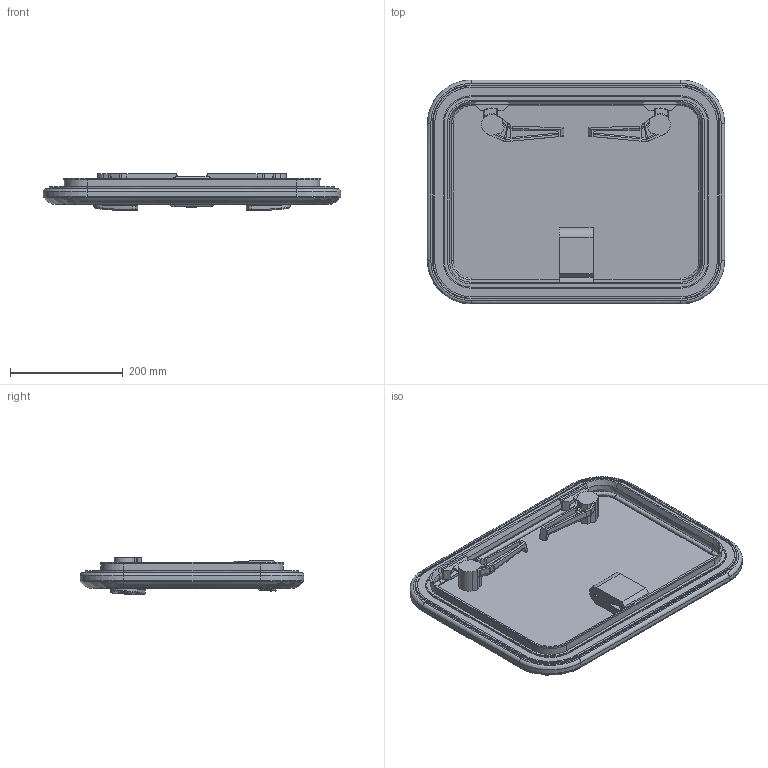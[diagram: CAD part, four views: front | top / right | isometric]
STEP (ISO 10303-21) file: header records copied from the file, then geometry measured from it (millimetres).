
FILE_DESCRIPTION((''),'2;1');
FILE_NAME('LEWMAR-HATCH-MEDPRO-30_ASM','2008-02-04T',('skennedy'),(''),'PRO/ENGINEER BY PARAMETRIC TECHNOLOGY CORPORATION, 2007030','PRO/ENGINEER BY PARAMETRIC TECHNOLOGY CORPORATION, 2007030','');
FILE_SCHEMA(('CONFIG_CONTROL_DESIGN'));
Length unit declared in the file: millimetre
Products named in the file (6): FRAME_MP_30; 3593043X; HANDLE_LHS; HANDLE_RHS; HINGE_LEVER; LEWMAR-HATCH-MEDPRO-30_ASM
Assembly tree (5 placements, depth 2):
  LEWMAR-HATCH-MEDPRO-30_ASM
    FRAME_MP_30
    3593043X
    HANDLE_LHS
    HANDLE_RHS
    HINGE_LEVER
Bounding box: 527 x 397 x 65.24 mm (x, y, z)
Volume: 2237060.8 mm3; surface area: 776418.7 mm2
Topology: 3 solids, 5 shells, 991 faces, 2530 edges, 1562 vertices
Faces by surface type: plane 368, bspline 299, cylinder 189, torus 43, cone 37, extrusion 35, sphere 20
Entity records: 41393 total; most frequent: CARTESIAN_POINT 19701, ORIENTED_EDGE 5026, DIRECTION 3548, EDGE_CURVE 2515, VERTEX_POINT 1562, AXIS2_PLACEMENT_3D 1218, VECTOR 1112, LINE 1077
